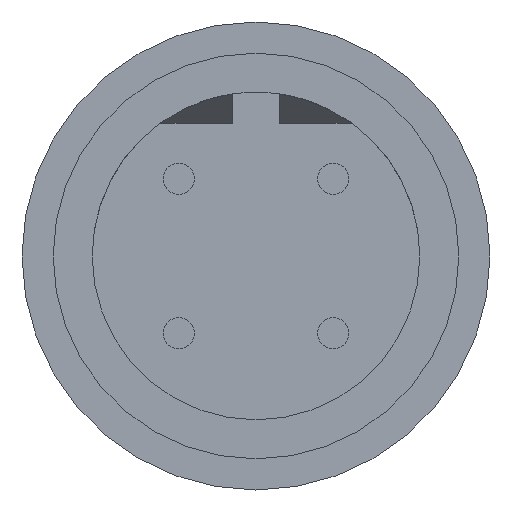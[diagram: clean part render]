
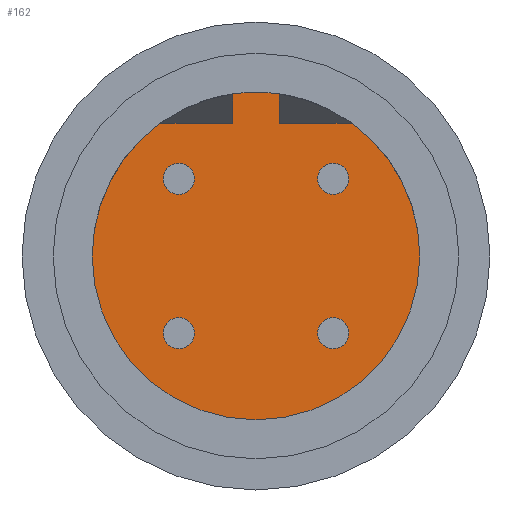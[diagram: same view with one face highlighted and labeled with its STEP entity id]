
A CAD part, left-side view. The second image highlights one B-rep face of the part: STEP entity #162.
In plain terms, the highlighted planar face has unit normal (-1, 0, 0).
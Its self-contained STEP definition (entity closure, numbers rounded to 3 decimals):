
#9 = VERTEX_POINT ( 'NONE', #475 ) ;
#15 = EDGE_CURVE ( 'NONE', #20, #132, #620, .T. ) ;
#20 = VERTEX_POINT ( 'NONE', #541 ) ;
#132 = VERTEX_POINT ( 'NONE', #739 ) ;
#138 = VERTEX_POINT ( 'NONE', #811 ) ;
#145 = ORIENTED_EDGE ( 'NONE', *, *, #146, .T. ) ;
#146 = EDGE_CURVE ( 'NONE', #132, #213, #749, .T. ) ;
#147 = ORIENTED_EDGE ( 'NONE', *, *, #313, .T. ) ;
#148 = ORIENTED_EDGE ( 'NONE', *, *, #303, .T. ) ;
#149 = EDGE_LOOP ( 'NONE', ( #243, #244 ) ) ;
#161 = EDGE_CURVE ( 'NONE', #222, #245, #767, .T. ) ;
#162 = ADVANCED_FACE ( 'NONE', ( #762, #761, #760, #759, #758 ), #791, .T. ) ;
#163 = EDGE_LOOP ( 'NONE', ( #164, #165, #166, #167, #168, #145, #147, #148 ) ) ;
#164 = ORIENTED_EDGE ( 'NONE', *, *, #293, .T. ) ;
#165 = ORIENTED_EDGE ( 'NONE', *, *, #301, .T. ) ;
#166 = ORIENTED_EDGE ( 'NONE', *, *, #206, .T. ) ;
#167 = ORIENTED_EDGE ( 'NONE', *, *, #251, .T. ) ;
#168 = ORIENTED_EDGE ( 'NONE', *, *, #15, .T. ) ;
#169 = EDGE_CURVE ( 'NONE', #224, #257, #786, .T. ) ;
#175 = VERTEX_POINT ( 'NONE', #883 ) ;
#191 = VERTEX_POINT ( 'NONE', #910 ) ;
#206 = EDGE_CURVE ( 'NONE', #302, #9, #928, .T. ) ;
#213 = VERTEX_POINT ( 'NONE', #977 ) ;
#219 = EDGE_CURVE ( 'NONE', #245, #222, #942, .T. ) ;
#222 = VERTEX_POINT ( 'NONE', #992 ) ;
#224 = VERTEX_POINT ( 'NONE', #985 ) ;
#227 = EDGE_LOOP ( 'NONE', ( #228, #334 ) ) ;
#228 = ORIENTED_EDGE ( 'NONE', *, *, #258, .T. ) ;
#241 = EDGE_CURVE ( 'NONE', #138, #322, #995, .T. ) ;
#243 = ORIENTED_EDGE ( 'NONE', *, *, #219, .T. ) ;
#244 = ORIENTED_EDGE ( 'NONE', *, *, #161, .T. ) ;
#245 = VERTEX_POINT ( 'NONE', #1096 ) ;
#251 = EDGE_CURVE ( 'NONE', #9, #20, #993, .T. ) ;
#253 = VERTEX_POINT ( 'NONE', #994 ) ;
#257 = VERTEX_POINT ( 'NONE', #1087 ) ;
#258 = EDGE_CURVE ( 'NONE', #257, #224, #984, .T. ) ;
#293 = EDGE_CURVE ( 'NONE', #191, #315, #1047, .T. ) ;
#294 = EDGE_CURVE ( 'NONE', #253, #175, #1066, .T. ) ;
#300 = EDGE_CURVE ( 'NONE', #175, #253, #1027, .T. ) ;
#301 = EDGE_CURVE ( 'NONE', #315, #302, #1108, .T. ) ;
#302 = VERTEX_POINT ( 'NONE', #1104 ) ;
#303 = EDGE_CURVE ( 'NONE', #304, #191, #1129, .T. ) ;
#304 = VERTEX_POINT ( 'NONE', #1130 ) ;
#313 = EDGE_CURVE ( 'NONE', #213, #304, #1139, .T. ) ;
#315 = VERTEX_POINT ( 'NONE', #1124 ) ;
#322 = VERTEX_POINT ( 'NONE', #1143 ) ;
#323 = EDGE_CURVE ( 'NONE', #322, #138, #1142, .T. ) ;
#333 = ORIENTED_EDGE ( 'NONE', *, *, #323, .T. ) ;
#334 = ORIENTED_EDGE ( 'NONE', *, *, #169, .T. ) ;
#341 = ORIENTED_EDGE ( 'NONE', *, *, #241, .T. ) ;
#354 = ORIENTED_EDGE ( 'NONE', *, *, #300, .T. ) ;
#386 = EDGE_LOOP ( 'NONE', ( #333, #341 ) ) ;
#409 = EDGE_LOOP ( 'NONE', ( #410, #354 ) ) ;
#410 = ORIENTED_EDGE ( 'NONE', *, *, #294, .T. ) ;
#475 = CARTESIAN_POINT ( 'NONE',  ( -72.628, 2.447, 3.373 ) ) ;
#541 = CARTESIAN_POINT ( 'NONE',  ( -72.628, 4.167, 0. ) ) ;
#616 = DIRECTION ( 'NONE',  ( 0., 1., 0. ) ) ;
#617 = DIRECTION ( 'NONE',  ( -1., 0., 0. ) ) ;
#618 = CARTESIAN_POINT ( 'NONE',  ( -72.628, 0., 0. ) ) ;
#619 = AXIS2_PLACEMENT_3D ( 'NONE', #618, #617, #616 ) ;
#620 = CIRCLE ( 'NONE', #619, 4.167 ) ;
#739 = CARTESIAN_POINT ( 'NONE',  ( -72.628, -4.167, 0. ) ) ;
#747 = CARTESIAN_POINT ( 'NONE',  ( -72.628, 0., 0. ) ) ;
#748 = AXIS2_PLACEMENT_3D ( 'NONE', #747, #794, #793 ) ;
#749 = CIRCLE ( 'NONE', #748, 4.167 ) ;
#758 = FACE_BOUND ( 'NONE', #409, .T. ) ;
#759 = FACE_BOUND ( 'NONE', #386, .T. ) ;
#760 = FACE_BOUND ( 'NONE', #227, .T. ) ;
#761 = FACE_BOUND ( 'NONE', #149, .T. ) ;
#762 = FACE_OUTER_BOUND ( 'NONE', #163, .T. ) ;
#763 = DIRECTION ( 'NONE',  ( 0., 1., 0. ) ) ;
#764 = DIRECTION ( 'NONE',  ( 1., 0., 0. ) ) ;
#765 = CARTESIAN_POINT ( 'NONE',  ( -72.628, 1.964, 1.964 ) ) ;
#766 = AXIS2_PLACEMENT_3D ( 'NONE', #765, #764, #763 ) ;
#767 = CIRCLE ( 'NONE', #766, 0.397 ) ;
#782 = DIRECTION ( 'NONE',  ( 0., 1., 0. ) ) ;
#783 = DIRECTION ( 'NONE',  ( 1., 0., 0. ) ) ;
#784 = CARTESIAN_POINT ( 'NONE',  ( -72.628, 1.964, -1.964 ) ) ;
#785 = AXIS2_PLACEMENT_3D ( 'NONE', #784, #783, #782 ) ;
#786 = CIRCLE ( 'NONE', #785, 0.397 ) ;
#787 = DIRECTION ( 'NONE',  ( 0., -1., 0. ) ) ;
#788 = DIRECTION ( 'NONE',  ( -1., 0., 0. ) ) ;
#789 = CARTESIAN_POINT ( 'NONE',  ( -72.628, 0.595, 3.373 ) ) ;
#790 = AXIS2_PLACEMENT_3D ( 'NONE', #789, #788, #787 ) ;
#791 = PLANE ( 'NONE',  #790 ) ;
#793 = DIRECTION ( 'NONE',  ( 0., 1., 0. ) ) ;
#794 = DIRECTION ( 'NONE',  ( -1., 0., 0. ) ) ;
#811 = CARTESIAN_POINT ( 'NONE',  ( -72.628, -2.361, 1.964 ) ) ;
#883 = CARTESIAN_POINT ( 'NONE',  ( -72.628, -2.361, -1.964 ) ) ;
#893 = DIRECTION ( 'NONE',  ( 0., 1., 0. ) ) ;
#894 = VECTOR ( 'NONE', #893, 1000. ) ;
#895 = CARTESIAN_POINT ( 'NONE',  ( -72.628, 0.595, 3.373 ) ) ;
#910 = CARTESIAN_POINT ( 'NONE',  ( -72.628, -0.595, 4.124 ) ) ;
#928 = LINE ( 'NONE', #895, #894 ) ;
#931 = DIRECTION ( 'NONE',  ( 0., 1., 0. ) ) ;
#932 = DIRECTION ( 'NONE',  ( 1., 0., 0. ) ) ;
#935 = DIRECTION ( 'NONE',  ( 0., 1., 0. ) ) ;
#936 = DIRECTION ( 'NONE',  ( 1., 0., 0. ) ) ;
#937 = CARTESIAN_POINT ( 'NONE',  ( -72.628, 1.964, 1.964 ) ) ;
#938 = AXIS2_PLACEMENT_3D ( 'NONE', #937, #936, #935 ) ;
#942 = CIRCLE ( 'NONE', #938, 0.397 ) ;
#977 = CARTESIAN_POINT ( 'NONE',  ( -72.628, -2.447, 3.373 ) ) ;
#980 = DIRECTION ( 'NONE',  ( 0., 1., 0. ) ) ;
#981 = DIRECTION ( 'NONE',  ( 1., 0., 0. ) ) ;
#982 = CARTESIAN_POINT ( 'NONE',  ( -72.628, 1.964, -1.964 ) ) ;
#983 = AXIS2_PLACEMENT_3D ( 'NONE', #982, #981, #997 ) ;
#984 = CIRCLE ( 'NONE', #983, 0.397 ) ;
#985 = CARTESIAN_POINT ( 'NONE',  ( -72.628, 1.568, -1.964 ) ) ;
#986 = AXIS2_PLACEMENT_3D ( 'NONE', #1080, #1082, #1081 ) ;
#992 = CARTESIAN_POINT ( 'NONE',  ( -72.628, 1.568, 1.964 ) ) ;
#993 = CIRCLE ( 'NONE', #1069, 4.167 ) ;
#994 = CARTESIAN_POINT ( 'NONE',  ( -72.628, -1.568, -1.964 ) ) ;
#995 = CIRCLE ( 'NONE', #986, 0.397 ) ;
#997 = DIRECTION ( 'NONE',  ( 0., 1., 0. ) ) ;
#1025 = CARTESIAN_POINT ( 'NONE',  ( -72.628, -1.964, -1.964 ) ) ;
#1026 = AXIS2_PLACEMENT_3D ( 'NONE', #1025, #932, #931 ) ;
#1027 = CIRCLE ( 'NONE', #1026, 0.397 ) ;
#1043 = DIRECTION ( 'NONE',  ( 0., 1., 0. ) ) ;
#1044 = DIRECTION ( 'NONE',  ( -1., 0., 0. ) ) ;
#1045 = CARTESIAN_POINT ( 'NONE',  ( -72.628, 0., 0. ) ) ;
#1046 = AXIS2_PLACEMENT_3D ( 'NONE', #1045, #1044, #1043 ) ;
#1047 = CIRCLE ( 'NONE', #1046, 4.167 ) ;
#1062 = DIRECTION ( 'NONE',  ( 0., 1., 0. ) ) ;
#1063 = DIRECTION ( 'NONE',  ( 1., 0., 0. ) ) ;
#1064 = CARTESIAN_POINT ( 'NONE',  ( -72.628, -1.964, -1.964 ) ) ;
#1065 = AXIS2_PLACEMENT_3D ( 'NONE', #1064, #1063, #1062 ) ;
#1066 = CIRCLE ( 'NONE', #1065, 0.397 ) ;
#1067 = DIRECTION ( 'NONE',  ( -1., 0., 0. ) ) ;
#1068 = CARTESIAN_POINT ( 'NONE',  ( -72.628, 0., 0. ) ) ;
#1069 = AXIS2_PLACEMENT_3D ( 'NONE', #1068, #1067, #980 ) ;
#1080 = CARTESIAN_POINT ( 'NONE',  ( -72.628, -1.964, 1.964 ) ) ;
#1081 = DIRECTION ( 'NONE',  ( 0., 1., 0. ) ) ;
#1082 = DIRECTION ( 'NONE',  ( 1., 0., 0. ) ) ;
#1087 = CARTESIAN_POINT ( 'NONE',  ( -72.628, 2.361, -1.964 ) ) ;
#1096 = CARTESIAN_POINT ( 'NONE',  ( -72.628, 2.361, 1.964 ) ) ;
#1104 = CARTESIAN_POINT ( 'NONE',  ( -72.628, 0.595, 3.373 ) ) ;
#1108 = LINE ( 'NONE', #1120, #1119 ) ;
#1118 = DIRECTION ( 'NONE',  ( 0., 0., -1. ) ) ;
#1119 = VECTOR ( 'NONE', #1118, 1000. ) ;
#1120 = CARTESIAN_POINT ( 'NONE',  ( -72.628, 0.595, 4.124 ) ) ;
#1124 = CARTESIAN_POINT ( 'NONE',  ( -72.628, 0.595, 4.124 ) ) ;
#1129 = LINE ( 'NONE', #1133, #1132 ) ;
#1130 = CARTESIAN_POINT ( 'NONE',  ( -72.628, -0.595, 3.373 ) ) ;
#1131 = DIRECTION ( 'NONE',  ( 0., 0., 1. ) ) ;
#1132 = VECTOR ( 'NONE', #1131, 1000. ) ;
#1133 = CARTESIAN_POINT ( 'NONE',  ( -72.628, -0.595, 3.373 ) ) ;
#1136 = DIRECTION ( 'NONE',  ( 0., 1., 0. ) ) ;
#1137 = VECTOR ( 'NONE', #1136, 1000. ) ;
#1138 = CARTESIAN_POINT ( 'NONE',  ( -72.628, 0.595, 3.373 ) ) ;
#1139 = LINE ( 'NONE', #1138, #1137 ) ;
#1142 = CIRCLE ( 'NONE', #1155, 0.397 ) ;
#1143 = CARTESIAN_POINT ( 'NONE',  ( -72.628, -1.568, 1.964 ) ) ;
#1153 = DIRECTION ( 'NONE',  ( 1., 0., 0. ) ) ;
#1154 = CARTESIAN_POINT ( 'NONE',  ( -72.628, -1.964, 1.964 ) ) ;
#1155 = AXIS2_PLACEMENT_3D ( 'NONE', #1154, #1153, #1179 ) ;
#1179 = DIRECTION ( 'NONE',  ( 0., 1., 0. ) ) ;
